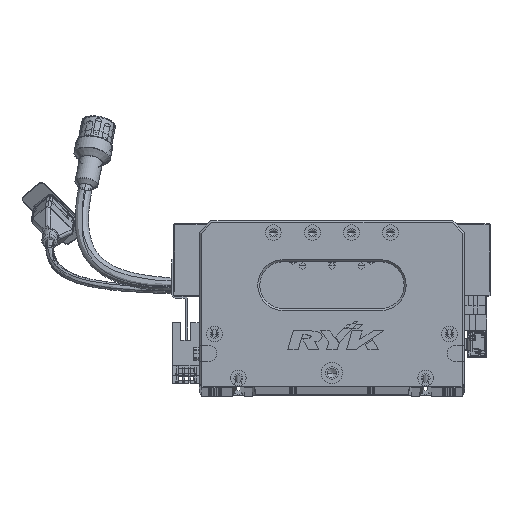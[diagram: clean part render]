
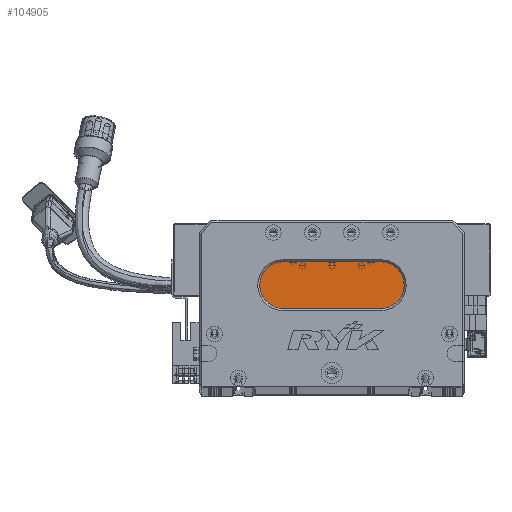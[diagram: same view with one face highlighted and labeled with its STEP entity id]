
A CAD part, top view. The second image highlights one B-rep face of the part: STEP entity #104905.
In plain terms, the highlighted planar face has unit normal (0, 0, 1) as drawn and (0, 0, -1) by its records, which use the part's own axes.
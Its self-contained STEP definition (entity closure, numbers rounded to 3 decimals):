
#3206 = DIRECTION ( 'NONE',  ( 0., 0., -1. ) ) ;
#14563 = DIRECTION ( 'NONE',  ( 0., 0., -1. ) ) ;
#15007 = DIRECTION ( 'NONE',  ( -1., 0., 0. ) ) ;
#15429 = PLANE ( 'NONE',  #125495 ) ;
#15546 = LINE ( 'NONE', #63514, #69559 ) ;
#18122 = EDGE_CURVE ( 'NONE', #29029, #40329, #79136, .T. ) ;
#18319 = AXIS2_PLACEMENT_3D ( 'NONE', #100580, #80269, #70807 ) ;
#23207 = AXIS2_PLACEMENT_3D ( 'NONE', #111456, #3206, #120998 ) ;
#28343 = VECTOR ( 'NONE', #87606, 1000. ) ;
#29029 = VERTEX_POINT ( 'NONE', #36924 ) ;
#31537 = AXIS2_PLACEMENT_3D ( 'NONE', #86348, #66565, #47949 ) ;
#36924 = CARTESIAN_POINT ( 'NONE',  ( 93., 64., 13. ) ) ;
#40329 = VERTEX_POINT ( 'NONE', #89487 ) ;
#46577 = FACE_OUTER_BOUND ( 'NONE', #117287, .T. ) ;
#47949 = DIRECTION ( 'NONE',  ( -1., 0., 0. ) ) ;
#49538 = VERTEX_POINT ( 'NONE', #78745 ) ;
#52767 = ORIENTED_EDGE ( 'NONE', *, *, #18122, .T. ) ;
#63514 = CARTESIAN_POINT ( 'NONE',  ( 93., 64., 13. ) ) ;
#63928 = LINE ( 'NONE', #107872, #28343 ) ;
#66565 = DIRECTION ( 'NONE',  ( 0., 0., -1. ) ) ;
#69559 = VECTOR ( 'NONE', #112627, 1000. ) ;
#70807 = DIRECTION ( 'NONE',  ( -1., 0., 0. ) ) ;
#72000 = ORIENTED_EDGE ( 'NONE', *, *, #115550, .T. ) ;
#72284 = ORIENTED_EDGE ( 'NONE', *, *, #97976, .T. ) ;
#72393 = CARTESIAN_POINT ( 'NONE',  ( 43., 40., 13. ) ) ;
#73661 = CARTESIAN_POINT ( 'NONE',  ( 93., 52., 13. ) ) ;
#76807 = EDGE_CURVE ( 'NONE', #40329, #107195, #63928, .T. ) ;
#78745 = CARTESIAN_POINT ( 'NONE',  ( 43., 64., 13. ) ) ;
#79136 = CIRCLE ( 'NONE', #31537, 12. ) ;
#80269 = DIRECTION ( 'NONE',  ( 0., 0., -1. ) ) ;
#82951 = CIRCLE ( 'NONE', #18319, 12. ) ;
#86348 = CARTESIAN_POINT ( 'NONE',  ( 93., 52., 13. ) ) ;
#87606 = DIRECTION ( 'NONE',  ( -1., 0., 0. ) ) ;
#88575 = EDGE_CURVE ( 'NONE', #107195, #114911, #82951, .T. ) ;
#89487 = CARTESIAN_POINT ( 'NONE',  ( 93., 40., 13. ) ) ;
#92286 = ORIENTED_EDGE ( 'NONE', *, *, #88575, .T. ) ;
#92547 = ORIENTED_EDGE ( 'NONE', *, *, #76807, .T. ) ;
#97976 = EDGE_CURVE ( 'NONE', #114911, #49538, #115038, .T. ) ;
#100580 = CARTESIAN_POINT ( 'NONE',  ( 43., 52., 13. ) ) ;
#101685 = CARTESIAN_POINT ( 'NONE',  ( 31., 52., 13. ) ) ;
#104905 = ADVANCED_FACE ( 'NONE', ( #46577 ), #15429, .T. ) ;
#107195 = VERTEX_POINT ( 'NONE', #72393 ) ;
#107872 = CARTESIAN_POINT ( 'NONE',  ( 93., 40., 13. ) ) ;
#111456 = CARTESIAN_POINT ( 'NONE',  ( 43., 52., 13. ) ) ;
#112627 = DIRECTION ( 'NONE',  ( 1., 0., 0. ) ) ;
#114911 = VERTEX_POINT ( 'NONE', #101685 ) ;
#115038 = CIRCLE ( 'NONE', #23207, 12. ) ;
#115550 = EDGE_CURVE ( 'NONE', #49538, #29029, #15546, .T. ) ;
#117287 = EDGE_LOOP ( 'NONE', ( #52767, #92547, #92286, #72284, #72000 ) ) ;
#120998 = DIRECTION ( 'NONE',  ( -1., 0., 0. ) ) ;
#125495 = AXIS2_PLACEMENT_3D ( 'NONE', #73661, #14563, #15007 ) ;
